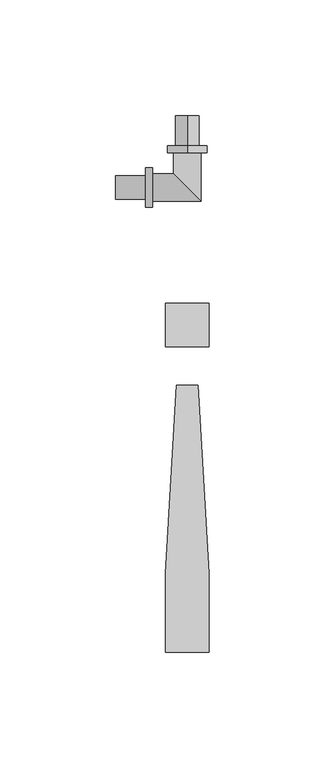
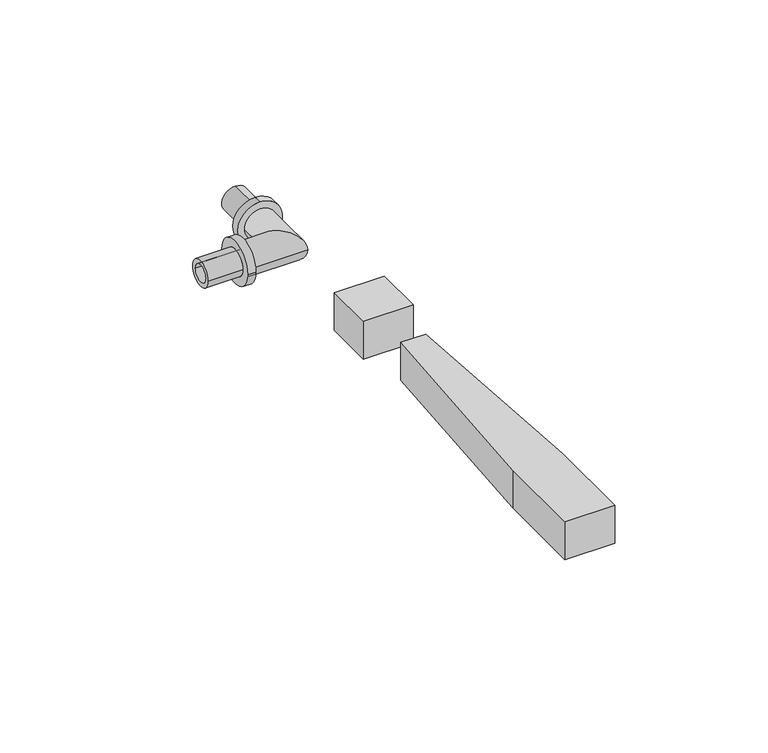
"""IFC4 building model written with IfcOpenShell, lengths in millimetres: pipe fitting geometry, RAUTITAN_Corner_LX : RTI LX C DN."""

from ifc_helpers import new_model, si_unit, frame, origin, origin_with_axes, place, context, project, spatial, polyline, circle_curve, ellipse_curve, outline, extrude, source, transform, mapped, element, save
from ifc_brep_helpers import plane_surface, cylinder_surface, revolved_surface, advanced_brep


def pipe_fitting_7df122d3(model_context):
    return source(origin(), model_context, "Body", "SolidModel", [
        extrude(outline(polyline([(4.7088895, -85.3166715), (9.4177791, -166.6553807), (9.4177791, -200.6844652), (-9.4177791, -200.6844652), (-9.4177791, -166.6553807), (-4.7088895, -85.3166715), (4.7088895, -85.3166715)])), origin_with_axes(), (0.0, 0.0, 1.0), 15.0),
        extrude(outline(polyline([(9.4177791, -50.0), (9.4177791, -68.8355582), (-9.4177791, -68.8355582), (-9.4177791, -50.0), (9.4177791, -50.0)])), origin_with_axes(), (0.0, 0.0, 1.0), 15.0),
        advanced_brep(
        [(0.0, 18.0, 8.5), (0.0, 18.0, -8.5), (0.0, 15.0, -8.5), (0.0, 15.0, 8.5), (0.0, 31.0, 5.1), (0.0, 31.0, -5.1), (0.0, 18.0, -5.1), (0.0, 18.0, 5.1), (0.0, 15.0, 3.3), (0.0, 15.0, -3.3), (0.0, 31.0, -3.3), (0.0, 31.0, 3.3)],
        [
            (0, 1, circle_curve(frame((0.0, 18.0, 0.0), z_axis=(0.0, -1.0, 0.0), x_axis=(0.0, 0.0, -1.0)), 8.5)),
            (1, 2),
            (2, 3, circle_curve(frame((0.0, 15.0, 0.0), z_axis=(0.0, 1.0, 0.0), x_axis=(0.0, 0.0, -1.0)), 8.5)),
            (3, 0),
            (4, 5, circle_curve(frame((0.0, 31.0, 0.0), z_axis=(0.0, -1.0, 0.0), x_axis=(0.0, 0.0, -1.0)), 5.1)),
            (5, 6),
            (6, 7, circle_curve(frame((0.0, 18.0, 0.0), z_axis=(0.0, 1.0, 0.0), x_axis=(0.0, 0.0, -1.0)), 5.1)),
            (7, 4),
            (8, 9, circle_curve(frame((0.0, 15.0, 0.0), z_axis=(0.0, -1.0, 0.0), x_axis=(0.0, 0.0, -1.0)), 3.3)),
            (9, 10),
            (10, 11, circle_curve(frame((0.0, 31.0, 0.0), z_axis=(0.0, 1.0, 0.0), x_axis=(0.0, 0.0, -1.0)), 3.3)),
            (11, 8),
            (1, 0, circle_curve(frame((0.0, 18.0, 0.0), z_axis=(0.0, -1.0, 0.0), x_axis=(0.0, 0.0, 1.0)), 8.5)),
            (3, 2, circle_curve(frame((0.0, 15.0, 0.0), z_axis=(0.0, 1.0, 0.0), x_axis=(0.0, 0.0, 1.0)), 8.5)),
            (6, 7, circle_curve(frame((0.0, 18.0, 0.0), z_axis=(0.0, -1.0, 0.0), x_axis=(0.0, 0.0, 1.0)), 5.1)),
            (5, 4, circle_curve(frame((0.0, 31.0, 0.0), z_axis=(0.0, -1.0, 0.0), x_axis=(0.0, 0.0, 1.0)), 5.1)),
            (10, 11, circle_curve(frame((0.0, 31.0, 0.0), z_axis=(0.0, -1.0, 0.0), x_axis=(0.0, 0.0, 1.0)), 3.3)),
            (9, 8, circle_curve(frame((0.0, 15.0, 0.0), z_axis=(0.0, -1.0, 0.0), x_axis=(0.0, 0.0, 1.0)), 3.3)),
        ],
        [
            cylinder_surface(frame((0.0, 15.0, 0.0), z_axis=(0.0, 1.0, 0.0), x_axis=(0.0, 0.0, -1.0)), 8.5),
            cylinder_surface(frame((0.0, 15.0, 0.0), z_axis=(0.0, 1.0, 0.0), x_axis=(0.0, 0.0, -1.0)), 5.1),
            revolved_surface(polyline([(0.0, 31.0, -3.3), (0.0, 15.0, -3.3)]), (0.0, 15.0, 0.0), (0.0, 1.0, 0.0)),
            cylinder_surface(frame((0.0, 15.0, 0.0), z_axis=(0.0, 1.0, 0.0), x_axis=(0.0, 0.0, 1.0)), 8.5),
            plane_surface(frame((0.0, 18.0, 0.0), z_axis=(0.0, 1.0, 0.0), x_axis=(0.0, 0.0, 1.0))),
            cylinder_surface(frame((0.0, 15.0, 0.0), z_axis=(0.0, 1.0, 0.0), x_axis=(0.0, 0.0, 1.0)), 5.1),
            plane_surface(frame((0.0, 31.0, 0.0), z_axis=(0.0, 1.0, 0.0), x_axis=(0.0, 0.0, 1.0))),
            revolved_surface(polyline([(0.0, 31.0, 3.3), (0.0, 15.0, 3.3)]), (0.0, 15.0, 0.0), (0.0, 1.0, 0.0)),
            plane_surface(frame((0.0, 15.0, 0.0), z_axis=(0.0, -1.0, 0.0), x_axis=(0.0, 0.0, 1.0))),
        ],
        [
            (0, [[1, 2, 3, 4]]),
            (1, [[5, 6, 7, 8]]),
            (2, [[9, 10, 11, 12]]),
            (3, [[13, -4, 14, -2]]),
            (4, [[-13, -1], [15, -7]]),
            (5, [[16, -8, -15, -6]]),
            (6, [[-16, -5], [17, -11]]),
            (7, [[18, -12, -17, -10]]),
            (8, [[-14, -3], [-18, -9]]),
        ],
    ),
        advanced_brep(
        [(-18.0, -8.5, 0.0), (-18.0, 8.5, 0.0), (-15.0, 8.5, 0.0), (-15.0, -8.5, 0.0), (-31.0, -5.1, 0.0), (-31.0, 5.1, 0.0), (-18.0, 5.1, 0.0), (-18.0, -5.1, 0.0), (-15.0, -3.3, 0.0), (-15.0, 3.3, 0.0), (-31.0, 3.3, 0.0), (-31.0, -3.3, 0.0)],
        [
            (0, 1, circle_curve(frame((-18.0, 0.0, 0.0), z_axis=(1.0, 0.0, 0.0), x_axis=(0.0, 1.0, 0.0)), 8.5)),
            (1, 2),
            (2, 3, circle_curve(frame((-15.0, 0.0, 0.0), z_axis=(-1.0, 0.0, 0.0), x_axis=(0.0, 1.0, 0.0)), 8.5)),
            (3, 0),
            (4, 5, circle_curve(frame((-31.0, 0.0, 0.0), z_axis=(1.0, 0.0, 0.0), x_axis=(0.0, 1.0, 0.0)), 5.1)),
            (5, 6),
            (6, 7, circle_curve(frame((-18.0, 0.0, 0.0), z_axis=(-1.0, 0.0, 0.0), x_axis=(0.0, 1.0, 0.0)), 5.1)),
            (7, 4),
            (8, 9, circle_curve(frame((-15.0, 0.0, 0.0), z_axis=(1.0, 0.0, 0.0), x_axis=(0.0, 1.0, 0.0)), 3.3)),
            (9, 10),
            (10, 11, circle_curve(frame((-31.0, 0.0, 0.0), z_axis=(-1.0, 0.0, 0.0), x_axis=(0.0, 1.0, 0.0)), 3.3)),
            (11, 8),
            (1, 0, circle_curve(frame((-18.0, 0.0, 0.0), z_axis=(1.0, 0.0, 0.0), x_axis=(0.0, -1.0, 0.0)), 8.5)),
            (3, 2, circle_curve(frame((-15.0, 0.0, 0.0), z_axis=(-1.0, 0.0, 0.0), x_axis=(0.0, -1.0, 0.0)), 8.5)),
            (6, 7, circle_curve(frame((-18.0, 0.0, 0.0), z_axis=(1.0, 0.0, 0.0), x_axis=(0.0, -1.0, 0.0)), 5.1)),
            (5, 4, circle_curve(frame((-31.0, 0.0, 0.0), z_axis=(1.0, 0.0, 0.0), x_axis=(0.0, -1.0, 0.0)), 5.1)),
            (10, 11, circle_curve(frame((-31.0, 0.0, 0.0), z_axis=(1.0, 0.0, 0.0), x_axis=(0.0, -1.0, 0.0)), 3.3)),
            (9, 8, circle_curve(frame((-15.0, 0.0, 0.0), z_axis=(1.0, 0.0, 0.0), x_axis=(0.0, -1.0, 0.0)), 3.3)),
        ],
        [
            cylinder_surface(frame((-15.0, 0.0, 0.0), z_axis=(-1.0, 0.0, 0.0), x_axis=(0.0, 1.0, 0.0)), 8.5),
            cylinder_surface(frame((-15.0, 0.0, 0.0), z_axis=(-1.0, 0.0, 0.0), x_axis=(0.0, 1.0, 0.0)), 5.1),
            revolved_surface(polyline([(-31.0, 3.3, 0.0), (-15.0, 3.3, 0.0)]), (-15.0, 0.0, 0.0), (-1.0, 0.0, 0.0)),
            cylinder_surface(frame((-15.0, 0.0, 0.0), z_axis=(-1.0, 0.0, 0.0), x_axis=(0.0, -1.0, 0.0)), 8.5),
            plane_surface(frame((-18.0, 0.0, 0.0), z_axis=(-1.0, 0.0, 0.0), x_axis=(0.0, -1.0, 0.0))),
            cylinder_surface(frame((-15.0, 0.0, 0.0), z_axis=(-1.0, 0.0, 0.0), x_axis=(0.0, -1.0, 0.0)), 5.1),
            plane_surface(frame((-31.0, 0.0, 0.0), z_axis=(-1.0, 0.0, 0.0), x_axis=(0.0, -1.0, 0.0))),
            revolved_surface(polyline([(-31.0, -3.3, 0.0), (-15.0, -3.3, 0.0)]), (-15.0, 0.0, 0.0), (-1.0, 0.0, 0.0)),
            plane_surface(frame((-15.0, 0.0, 0.0), z_axis=(1.0, 0.0, 0.0), x_axis=(0.0, -1.0, 0.0))),
        ],
        [
            (0, [[1, 2, 3, 4]]),
            (1, [[5, 6, 7, 8]]),
            (2, [[9, 10, 11, 12]]),
            (3, [[13, -4, 14, -2]]),
            (4, [[-13, -1], [15, -7]]),
            (5, [[16, -8, -15, -6]]),
            (6, [[-16, -5], [17, -11]]),
            (7, [[18, -12, -17, -10]]),
            (8, [[-14, -3], [-18, -9]]),
        ],
    ),
        advanced_brep(
        [(-15.0, -6.0, 0.0), (-15.0, 6.0, 0.0), (-15.0, -3.3, 0.0), (-15.0, 3.3, 0.0), (-3.3, 3.3, 0.0), (3.3, -3.3, 0.0), (6.0, 15.0, 0.0), (-6.0, 15.0, 0.0), (3.3, 15.0, 0.0), (-3.3, 15.0, 0.0), (6.0, -6.0, 0.0), (-6.0, 6.0, 0.0)],
        [
            (0, 1, circle_curve(frame((-15.0, 0.0, 0.0), z_axis=(-1.0, 0.0, 0.0), x_axis=(0.0, 1.0, 0.0)), 6.0)),
            (1, 0, circle_curve(frame((-15.0, 0.0, 0.0), z_axis=(-1.0, 0.0, 0.0), x_axis=(0.0, 1.0, 0.0)), 6.0)),
            (2, 3, circle_curve(frame((-15.0, 0.0, 0.0), z_axis=(1.0, 0.0, 0.0), x_axis=(0.0, 1.0, 0.0)), 3.3)),
            (3, 2, circle_curve(frame((-15.0, 0.0, 0.0), z_axis=(1.0, 0.0, 0.0), x_axis=(0.0, 1.0, 0.0)), 3.3)),
            (3, 4),
            (4, 5, ellipse_curve(frame((0.0, 0.0, 0.0), z_axis=(0.707106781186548, 0.7071067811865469, 0.0), x_axis=(0.7071067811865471, -0.7071067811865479, 0.0)), 4.6669048, 3.3)),
            (5, 2),
            (5, 4, ellipse_curve(frame((0.0, 0.0, 0.0), z_axis=(0.707106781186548, 0.7071067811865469, 0.0), x_axis=(0.7071067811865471, -0.7071067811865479, 0.0)), 4.6669048, 3.3)),
            (6, 7, circle_curve(frame((0.0, 15.0, 0.0), z_axis=(0.0, 1.0, 0.0), x_axis=(-1.0, 0.0, 0.0)), 6.0)),
            (7, 6, circle_curve(frame((0.0, 15.0, 0.0), z_axis=(0.0, 1.0, 0.0), x_axis=(-1.0, 0.0, 0.0)), 6.0)),
            (8, 9, circle_curve(frame((0.0, 15.0, 0.0), z_axis=(0.0, -1.0, 0.0), x_axis=(-1.0, 0.0, 0.0)), 3.3)),
            (9, 8, circle_curve(frame((0.0, 15.0, 0.0), z_axis=(0.0, -1.0, 0.0), x_axis=(-1.0, 0.0, 0.0)), 3.3)),
            (4, 9),
            (8, 5),
            (0, 10),
            (10, 11, ellipse_curve(frame((0.0, 0.0, 0.0), z_axis=(-0.707106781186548, -0.7071067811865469, 0.0), x_axis=(-0.7071067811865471, 0.7071067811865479, 0.0)), 8.4852814, 6.0)),
            (11, 1),
            (11, 10, ellipse_curve(frame((0.0, 0.0, 0.0), z_axis=(-0.707106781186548, -0.7071067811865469, 0.0), x_axis=(-0.7071067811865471, 0.7071067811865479, 0.0)), 8.4852814, 6.0)),
            (10, 6),
            (7, 11),
        ],
        [
            plane_surface(frame((-15.0, 0.0, 0.0), z_axis=(-1.0, 0.0, 0.0), x_axis=(0.0, 0.0, 1.0))),
            revolved_surface(polyline([(3.300000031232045, 3.3, 0.0), (-15.0, 3.3, 0.0)]), (-15.0, 0.0, 0.0), (1.0, 0.0, 0.0)),
            plane_surface(frame((0.0, 15.0, 0.0), z_axis=(0.0, 1.0, 0.0), x_axis=(0.0, 0.0, 1.0))),
            revolved_surface(polyline([(-3.3, 15.0, 0.0), (-3.3, -3.30000003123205, 0.0)]), (0.0, 0.0, 0.0), (0.0, 1.0, 0.0)),
            cylinder_surface(frame((-15.0, 0.0, 0.0), z_axis=(-1.0, 0.0, 0.0), x_axis=(0.0, 1.0, 0.0)), 6.0),
            cylinder_surface(frame((0.0, 0.0, 0.0), z_axis=(0.0, -1.0, 0.0), x_axis=(-1.0, 0.0, 0.0)), 6.0),
        ],
        [
            (0, [[1, 2], [3, 4]]),
            (1, [[-4, 5, 6, 7]]),
            (1, [[-3, -7, 8, -5]]),
            (2, [[9, 10], [11, 12]]),
            (3, [[-6, 13, -11, 14]]),
            (3, [[-8, -14, -12, -13]]),
            (4, [[-1, 15, 16, 17]]),
            (4, [[-2, -17, 18, -15]]),
            (5, [[-16, 19, -10, 20]]),
            (5, [[-18, -20, -9, -19]]),
        ],
    ),
    ])


if __name__ == "__main__":
    model = new_model("IFC4")
    model_context = context("Model", 3, world=origin())
    ifc_project = project(units=[si_unit("LENGTHUNIT", "METRE", prefix="MILLI")], contexts=[model_context])
    site = spatial("IfcSite", under=ifc_project)
    building = spatial("IfcBuilding", under=site)
    placement = place(None, origin())
    pipe_fitting_shape = pipe_fitting_7df122d3(model_context)
    element("IfcPipeFitting", 1, ObjectType="RAUTITAN_Corner_LX : RTI LX C DN", at=placement, inside=building, context=model_context, shape_type="MappedRepresentation", body=[
        mapped(pipe_fitting_shape, transform((0.0, 0.0, 0.0), x_axis=(1.0, 0.0, 0.0), y_axis=(0.0, 1.0, 0.0), z_axis=(0.0, 0.0, 1.0))),
    ])
    save(model, "model.ifc")
